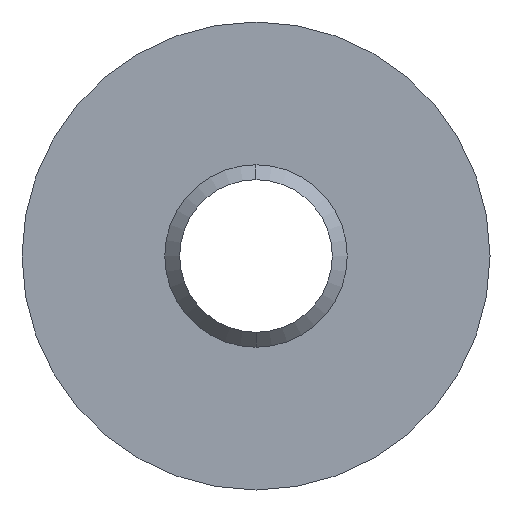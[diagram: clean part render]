
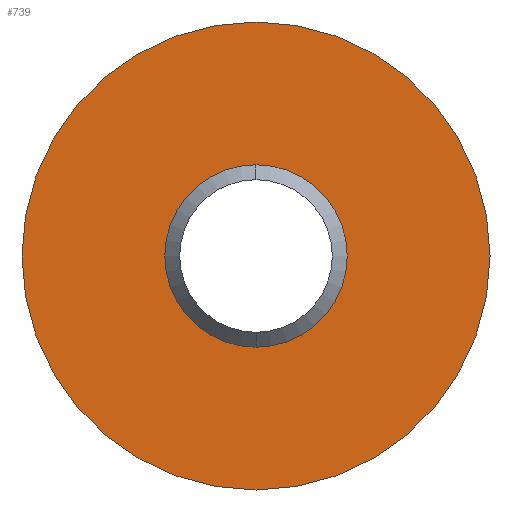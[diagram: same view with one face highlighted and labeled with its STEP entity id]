
A CAD part, left-side view. The second image highlights one B-rep face of the part: STEP entity #739.
In plain terms, the highlighted planar face has unit normal (-1, 0, 0).
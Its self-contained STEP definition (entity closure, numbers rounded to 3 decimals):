
#644=CARTESIAN_POINT('POINT5974',(-20.5,0.,
   9.75));
#645=VERTEX_POINT('VERTEX5974',#644);
#652=CARTESIAN_POINT('POINT5975',(-20.5,0.,
   -9.75));
#653=VERTEX_POINT('VERTEX5975',#652);
#654=CARTESIAN_POINT('POS9268',(-20.5,0.,0.));
#655=DIRECTION('DIR14125',(1.,0.,0.));
#656=DIRECTION('DIR14126',(0.,0.,1.));
#657=AXIS2_PLACEMENT_3D('AXIS4858',#654,#655,#656);
#658=CIRCLE('ELLIPSE2439',#657,9.75);
#659=EDGE_CURVE('EDGE9279',#653,#645,#658,.T.);
#679=EDGE_CURVE('EDGE9281',#645,#653,#658,.T.);
#715=ORIENTED_EDGE('COEDGE18563',*,*,#679,.T.);
#716=ORIENTED_EDGE('COEDGE18564',*,*,#659,.T.);
#717=EDGE_LOOP('NONE',(#715,#716));
#718=FACE_BOUND('LOOP1',#717,.T.);
#719=CARTESIAN_POINT('POINT5978',(-20.5,0.,-25.));
#720=VERTEX_POINT('VERTEX5978',#719);
#721=CARTESIAN_POINT('POINT5979',(-20.5,0.,
   25.));
#722=VERTEX_POINT('VERTEX5979',#721);
#723=CARTESIAN_POINT('POS9273',(-20.5,0.,0.));
#724=DIRECTION('DIR14134',(-1.,0.,0.));
#725=DIRECTION('DIR14135',(0.,0.,-1.));
#726=AXIS2_PLACEMENT_3D('AXIS4862',#723,#724,#725);
#727=CIRCLE('ELLIPSE2441',#726,25.);
#728=EDGE_CURVE('EDGE9284',#720,#722,#727,.T.);
#729=ORIENTED_EDGE('COEDGE18565',*,*,#728,.T.);
#730=EDGE_CURVE('EDGE9285',#722,#720,#727,.T.);
#731=ORIENTED_EDGE('COEDGE18566',*,*,#730,.T.);
#732=EDGE_LOOP('NONE',(#729,#731));
#733=FACE_BOUND('LOOP1',#732,.T.);
#734=CARTESIAN_POINT('POS9274',(-20.5,0.,0.));
#735=DIRECTION('DIR14136',(-1.,0.,0.));
#736=DIRECTION('DIR14137',(0.,1.,0.));
#737=AXIS2_PLACEMENT_3D('AXIS4863',#734,#735,#736);
#738=PLANE('PLANE1342',#737);
#739=ADVANCED_FACE('FACE3884',(#718,#733),#738,.T.);
